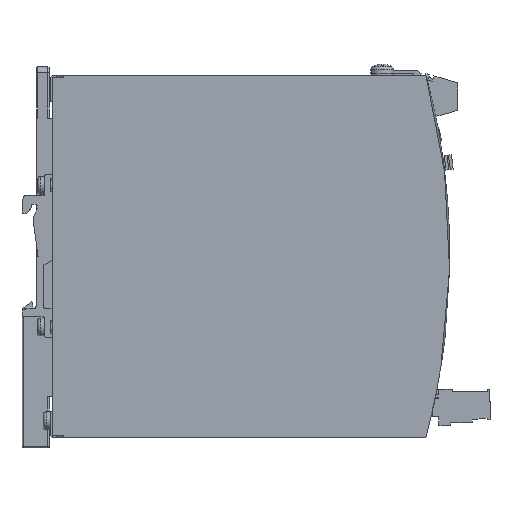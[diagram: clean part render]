
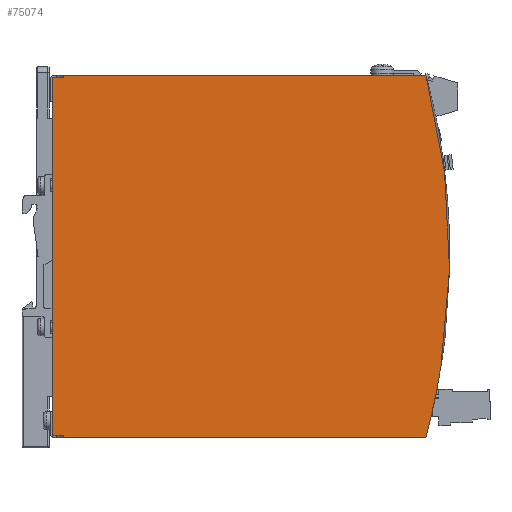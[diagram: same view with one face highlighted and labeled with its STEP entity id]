
A CAD part, front view. The second image highlights one B-rep face of the part: STEP entity #75074.
In plain terms, the highlighted planar face has unit normal (0, -1, 0).
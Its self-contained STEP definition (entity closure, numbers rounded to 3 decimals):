
#3042=PLANE('',#80614);
#6995=FACE_OUTER_BOUND('',#11586,.T.);
#11586=EDGE_LOOP('',(#61929,#61930,#61931,#61932,#61933,#61934,#61935,#61936,
#61937,#61938));
#13695=CIRCLE('',#76759,241.025);
#14968=CIRCLE('',#80615,241.);
#15611=LINE('',#104818,#24126);
#15618=LINE('',#104832,#24133);
#22102=LINE('',#120146,#30617);
#22105=LINE('',#120151,#30620);
#22106=LINE('',#120153,#30621);
#22107=LINE('',#120154,#30622);
#22108=LINE('',#120157,#30623);
#22109=LINE('',#120158,#30624);
#24126=VECTOR('',#83177,0.75);
#24133=VECTOR('',#83188,0.75);
#30617=VECTOR('',#97112,123.017);
#30620=VECTOR('',#97117,10.);
#30621=VECTOR('',#97118,10.);
#30622=VECTOR('',#97119,10.);
#30623=VECTOR('',#97122,10.);
#30624=VECTOR('',#97123,10.);
#32500=VERTEX_POINT('',#103237);
#32501=VERTEX_POINT('',#103239);
#32783=VERTEX_POINT('',#104812);
#32785=VERTEX_POINT('',#104816);
#32788=VERTEX_POINT('',#104826);
#32790=VERTEX_POINT('',#104830);
#37900=VERTEX_POINT('',#120145);
#37901=VERTEX_POINT('',#120150);
#37902=VERTEX_POINT('',#120152);
#37903=VERTEX_POINT('',#120155);
#39505=EDGE_CURVE('',#32500,#32501,#13695,.T.);
#39806=EDGE_CURVE('',#32783,#32785,#15611,.T.);
#39813=EDGE_CURVE('',#32788,#32790,#15618,.T.);
#47470=EDGE_CURVE('',#37900,#32785,#22102,.T.);
#47473=EDGE_CURVE('',#37901,#32790,#22105,.T.);
#47474=EDGE_CURVE('',#37902,#37901,#22106,.T.);
#47475=EDGE_CURVE('',#32783,#37902,#22107,.T.);
#47476=EDGE_CURVE('',#37903,#37900,#14968,.T.);
#47477=EDGE_CURVE('',#37903,#32501,#22108,.T.);
#47478=EDGE_CURVE('',#32788,#32500,#22109,.T.);
#61929=ORIENTED_EDGE('',*,*,#47473,.F.);
#61930=ORIENTED_EDGE('',*,*,#47474,.F.);
#61931=ORIENTED_EDGE('',*,*,#47475,.F.);
#61932=ORIENTED_EDGE('',*,*,#39806,.T.);
#61933=ORIENTED_EDGE('',*,*,#47470,.F.);
#61934=ORIENTED_EDGE('',*,*,#47476,.F.);
#61935=ORIENTED_EDGE('',*,*,#47477,.T.);
#61936=ORIENTED_EDGE('',*,*,#39505,.F.);
#61937=ORIENTED_EDGE('',*,*,#47478,.F.);
#61938=ORIENTED_EDGE('',*,*,#39813,.T.);
#75074=ADVANCED_FACE('',(#6995),#3042,.T.);
#76759=AXIS2_PLACEMENT_3D('',#103240,#82764,#82765);
#80614=AXIS2_PLACEMENT_3D('',#120149,#97115,#97116);
#80615=AXIS2_PLACEMENT_3D('',#120156,#97120,#97121);
#82764=DIRECTION('center_axis',(0.,1.,0.));
#82765=DIRECTION('ref_axis',(0.967,0.,0.254));
#83177=DIRECTION('',(0.,0.,-1.));
#83188=DIRECTION('',(0.,0.,-1.));
#97112=DIRECTION('',(-1.,0.,0.));
#97115=DIRECTION('center_axis',(0.,-1.,0.));
#97116=DIRECTION('ref_axis',(1.,0.,0.));
#97117=DIRECTION('',(1.,0.,0.));
#97118=DIRECTION('',(0.,0.,1.));
#97119=DIRECTION('',(-1.,0.,0.));
#97120=DIRECTION('center_axis',(0.,1.,0.));
#97121=DIRECTION('ref_axis',(0.966,0.,0.257));
#97122=DIRECTION('',(0.988,0.,-0.157));
#97123=DIRECTION('',(1.,0.,0.));
#103237=CARTESIAN_POINT('',(127.914,-32.,62.));
#103239=CARTESIAN_POINT('',(133.035,-32.,-37.847));
#103240=CARTESIAN_POINT('Origin',(-105.,-32.,0.));
#104812=CARTESIAN_POINT('',(3.65,-32.,-61.25));
#104816=CARTESIAN_POINT('',(3.65,-32.,-62.));
#104818=CARTESIAN_POINT('',(3.65,-32.,-31.));
#104826=CARTESIAN_POINT('',(3.65,-32.,62.));
#104830=CARTESIAN_POINT('',(3.65,-32.,61.25));
#104832=CARTESIAN_POINT('',(3.65,-32.,-31.));
#120145=CARTESIAN_POINT('',(127.888,-32.,-62.));
#120146=CARTESIAN_POINT('',(0.5,-32.,-62.));
#120149=CARTESIAN_POINT('Origin',(82.214,-32.,0.));
#120150=CARTESIAN_POINT('',(0.,-32.,61.25));
#120151=CARTESIAN_POINT('',(97.276,-32.,61.25));
#120152=CARTESIAN_POINT('',(0.,-32.,-61.25));
#120153=CARTESIAN_POINT('',(0.,-32.,30.625));
#120154=CARTESIAN_POINT('',(33.75,-32.,-61.25));
#120155=CARTESIAN_POINT('',(133.01,-32.,-37.843));
#120156=CARTESIAN_POINT('Origin',(-105.,-32.,0.));
#120157=CARTESIAN_POINT('',(133.01,-32.,-37.843));
#120158=CARTESIAN_POINT('',(127.63,-32.,62.));
